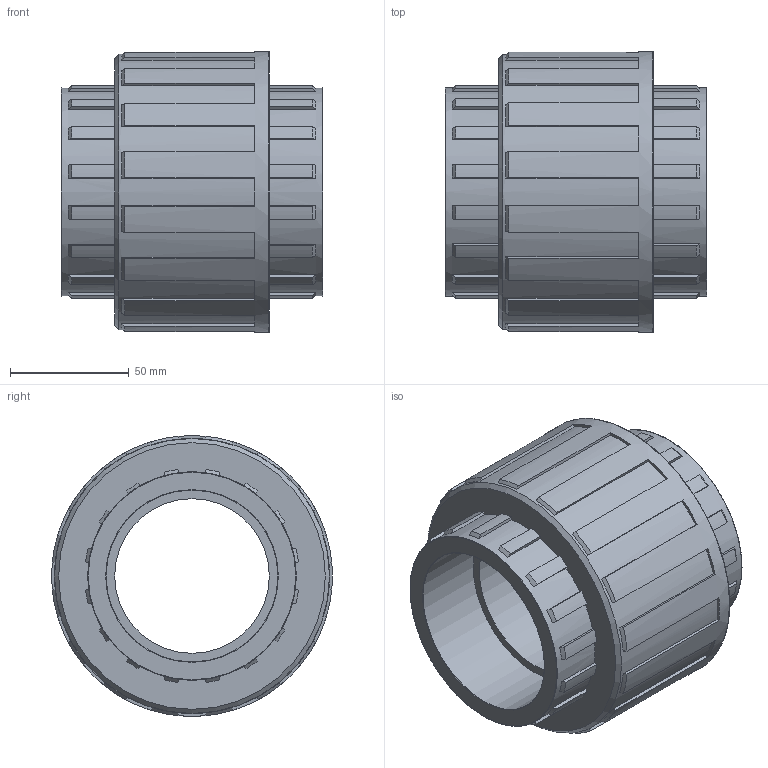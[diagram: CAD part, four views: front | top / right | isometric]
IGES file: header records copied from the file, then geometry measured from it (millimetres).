
Global section: file name: 050801025.ipt; native system: Autodesk Inventor 2015; preprocessor: unknown; author: KIM; date: 20171207.164934; units: millimetre
Bounding box: 110 x 118 x 118 mm (x, y, z)
Volume: 560536.5 mm3; surface area: 78376.3 mm2
Topology: 1 solids, 1 shells, 211 faces, 625 edges, 420 vertices
Faces by surface type: plane 118, cone 49, cylinder 36, revolution 8
Full cylindrical faces by diameter (mm): 87.574 x2, 115.64 x1, 118 x1
